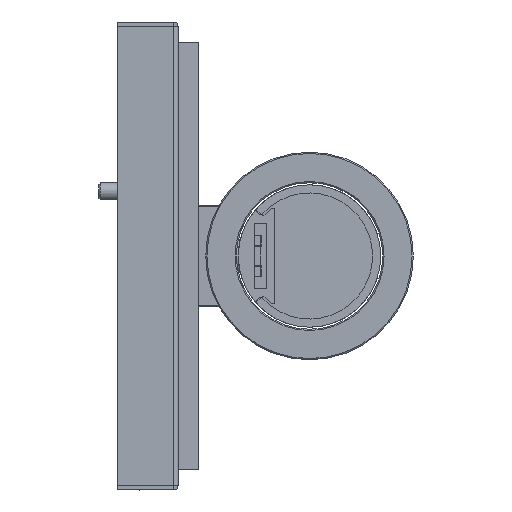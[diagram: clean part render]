
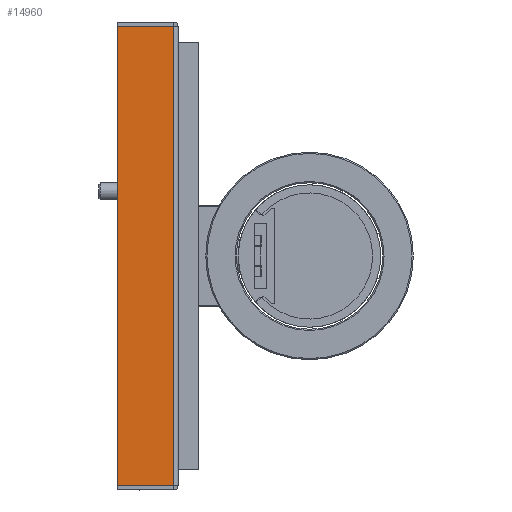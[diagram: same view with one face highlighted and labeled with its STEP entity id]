
A CAD part, front view. The second image highlights one B-rep face of the part: STEP entity #14960.
In plain terms, the highlighted planar face has unit normal (0, -1, 0) as drawn and (-1, 0, 0) by its records, which use the part's own axes.
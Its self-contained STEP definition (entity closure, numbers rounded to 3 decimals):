
#808=FACE_OUTER_BOUND('',#1719,.T.);
#1719=EDGE_LOOP('',(#10368,#10369,#10370,#10371));
#2776=LINE('',#22323,#4449);
#2779=LINE('',#22330,#4452);
#2782=LINE('',#22336,#4455);
#2783=LINE('',#22337,#4456);
#4449=VECTOR('',#17657,113.);
#4452=VECTOR('',#17666,14.);
#4455=VECTOR('',#17671,14.);
#4456=VECTOR('',#17672,113.);
#6496=VERTEX_POINT('',#22318);
#6497=VERTEX_POINT('',#22322);
#6498=VERTEX_POINT('',#22329);
#6500=VERTEX_POINT('',#22335);
#7992=EDGE_CURVE('',#6497,#6496,#2776,.T.);
#7996=EDGE_CURVE('',#6497,#6498,#2779,.T.);
#7999=EDGE_CURVE('',#6496,#6500,#2782,.T.);
#8000=EDGE_CURVE('',#6498,#6500,#2783,.T.);
#10368=ORIENTED_EDGE('',*,*,#7996,.F.);
#10369=ORIENTED_EDGE('',*,*,#7992,.T.);
#10370=ORIENTED_EDGE('',*,*,#7999,.T.);
#10371=ORIENTED_EDGE('',*,*,#8000,.F.);
#14249=PLANE('',#16118);
#14960=ADVANCED_FACE('',(#808),#14249,.F.);
#16118=AXIS2_PLACEMENT_3D('',#22334,#17669,#17670);
#17657=DIRECTION('',(0.,0.,1.));
#17666=DIRECTION('',(0.,1.,0.));
#17669=DIRECTION('center_axis',(1.,0.,0.));
#17670=DIRECTION('ref_axis',(0.,1.,0.));
#17671=DIRECTION('',(0.,1.,0.));
#17672=DIRECTION('',(0.,0.,1.));
#22318=CARTESIAN_POINT('',(-57.5,1.,56.5));
#22322=CARTESIAN_POINT('',(-57.5,1.,-56.5));
#22323=CARTESIAN_POINT('',(-57.5,1.,-56.5));
#22329=CARTESIAN_POINT('',(-57.5,15.,-56.5));
#22330=CARTESIAN_POINT('',(-57.5,1.,-56.5));
#22334=CARTESIAN_POINT('Origin',(-57.5,1.,-56.5));
#22335=CARTESIAN_POINT('',(-57.5,15.,56.5));
#22336=CARTESIAN_POINT('',(-57.5,1.,56.5));
#22337=CARTESIAN_POINT('',(-57.5,15.,-56.5));
